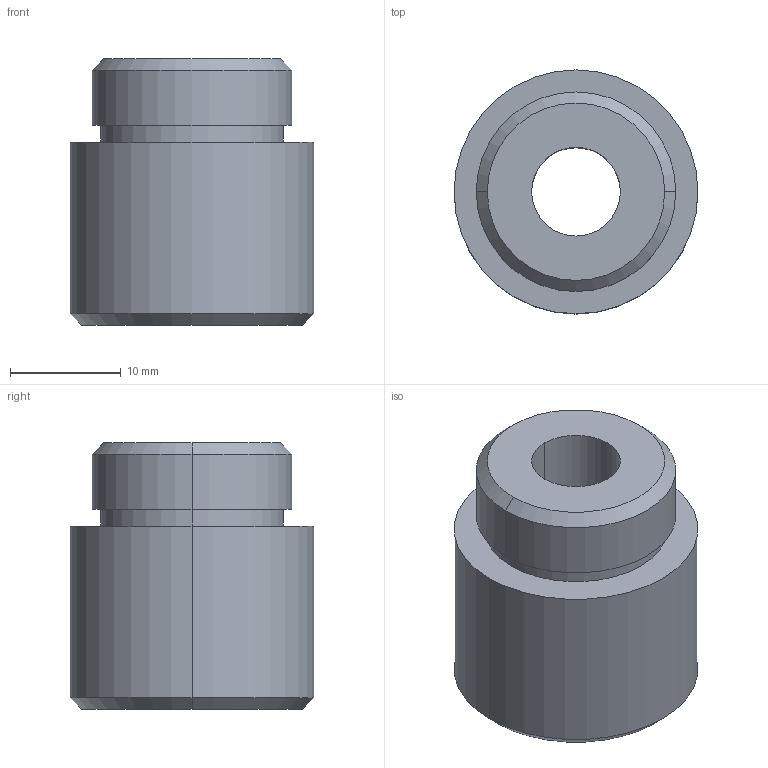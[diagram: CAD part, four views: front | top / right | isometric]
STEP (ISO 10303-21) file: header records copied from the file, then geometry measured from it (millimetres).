
FILE_DESCRIPTION((''),'2;1');
FILE_NAME('A11GU2A1','2018-09-05T14:26:50',('bryant.lin'),(''),'CREO PARAMETRIC BY PTC INC, 2018050','CREO PARAMETRIC BY PTC INC, 2018050','');
FILE_SCHEMA(('CONFIG_CONTROL_DESIGN'));
Length unit declared in the file: millimetre
Products named in the file (1): A11GU2A1
Bounding box: 22 x 22 x 24 mm (x, y, z)
Volume: 6852.6 mm3; surface area: 2825.4 mm2
Topology: 1 solids, 1 shells, 16 faces, 32 edges, 20 vertices
Faces by surface type: cylinder 8, plane 4, cone 4
Entity records: 466 total; most frequent: DIRECTION 84, CARTESIAN_POINT 68, ORIENTED_EDGE 64, AXIS2_PLACEMENT_3D 36, EDGE_CURVE 32, VERTEX_POINT 20, EDGE_LOOP 20, CIRCLE 20
